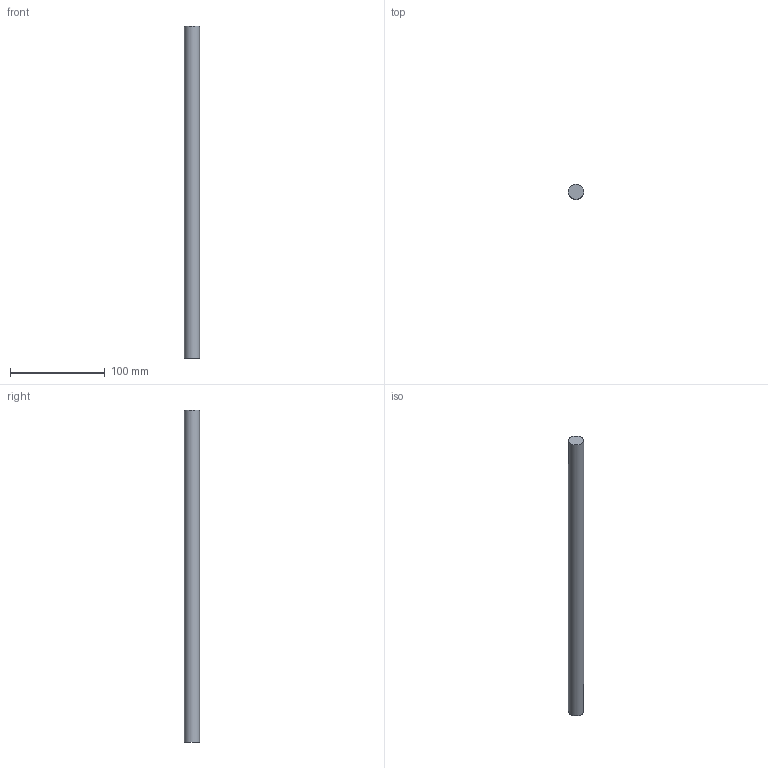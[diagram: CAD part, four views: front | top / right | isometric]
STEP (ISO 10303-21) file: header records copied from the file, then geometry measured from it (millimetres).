
FILE_DESCRIPTION(/* description */ (''),/* implementation_level */ '2;1');
FILE_NAME(/* name */ 'C:\Users\David\Desktop\stepFiles\Profilfuehrung\WF16x350.stp',/* time_stamp */ '2018-06-24T15:46:53+02:00',/* author */ ('David'),/* organization */ (''),/* preprocessor_version */ 'ST-DEVELOPER v17',/* originating_system */ 'Autodesk Inventor 2019',/* authorisation */ '');
FILE_SCHEMA (('AUTOMOTIVE_DESIGN { 1 0 10303 214 3 1 1 }'));
Length unit declared in the file: millimetre
Products named in the file (1): Wellenfuehrung
Bounding box: 16 x 16 x 350 mm (x, y, z)
Volume: 70371.7 mm3; surface area: 17995 mm2
Topology: 1 solids, 1 shells, 3 faces, 3 edges, 2 vertices
Faces by surface type: plane 2, cylinder 1
Full cylindrical faces by diameter (mm): 16 x1
Entity records: 98 total; most frequent: DIRECTION 13, CARTESIAN_POINT 9, ORIENTED_EDGE 6, AXIS2_PLACEMENT_3D 6, FACE_OUTER_BOUND 3, EDGE_LOOP 3, EDGE_CURVE 3, ADVANCED_FACE 3
